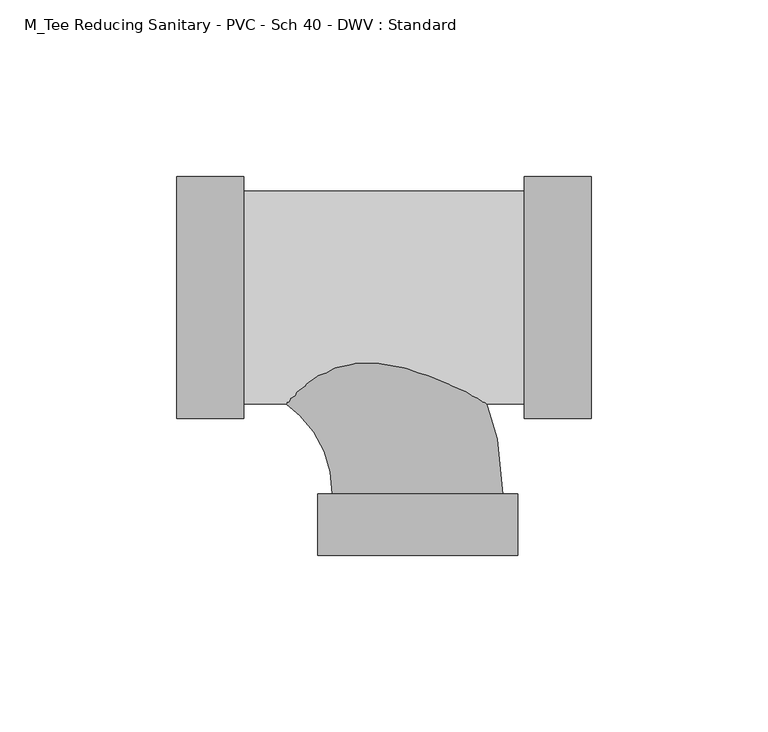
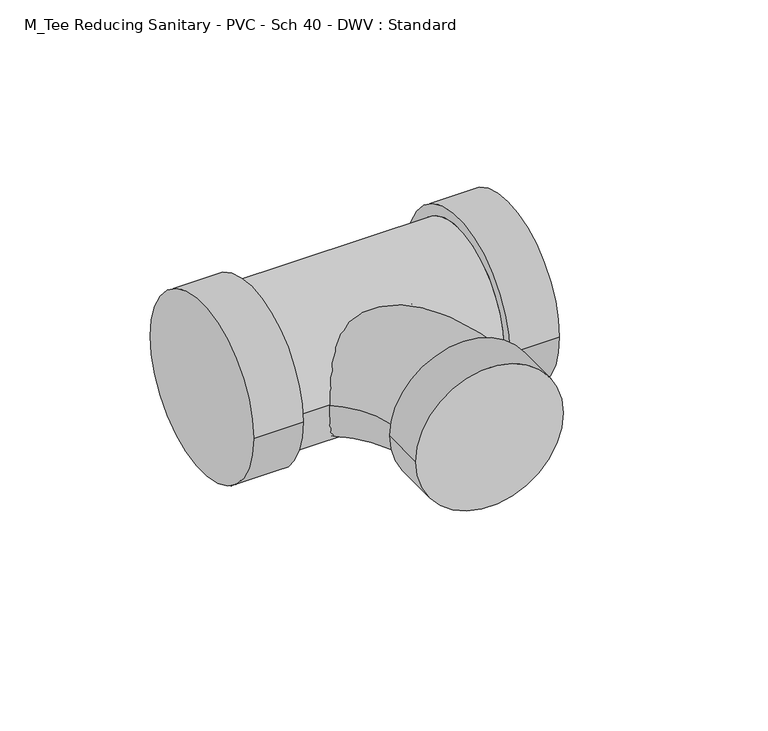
"""IFC4 building model written with IfcOpenShell, lengths in millimetres: pipe fitting geometry, M_Tee Reducing Sanitary - PVC - Sch 40 - DWV : Standard."""

from ifc_helpers import new_model, si_unit, point, frame, origin, place, context, project, spatial, circle_curve, ellipse_curve, trimmed, source, transform, mapped, element, save
from ifc_brep_helpers import plane_surface, cylinder_surface, revolved_surface, advanced_brep


def m_tee_reducing_sanitary_pvc_sch_40_dwv_standard_926349c4(model_context):
    return source(origin(), model_context, "Body", "AdvancedBrep", [
        advanced_brep(
        [(30.1498, -34.3154, 0.0), (30.1498, 34.3154, 0.0), (30.1498, -30.1625, 0.0), (30.1498, 30.1625, 0.0), (49.1998, -34.3154, 0.0), (49.1998, 34.3154, 0.0), (-49.2252, 30.1625, 0.0), (-49.2252, -30.1625, 0.0), (-68.2752, -34.3154, 0.0), (-68.2752, 34.3154, 0.0), (-49.2252, -34.3154, 0.0), (-49.2252, 34.3154, 0.0)],
        [
            (0, 1, circle_curve(frame((30.1498, 0.0, 0.0), z_axis=(-1.0, 0.0, 0.0), x_axis=(0.0, 1.0, 0.0)), 34.3154)),
            (1, 0, circle_curve(frame((30.1498, 0.0, 0.0), z_axis=(-1.0, 0.0, 0.0), x_axis=(0.0, 1.0, 0.0)), 34.3154)),
            (2, 3, circle_curve(frame((30.1498, 0.0, 0.0), z_axis=(1.0, 0.0, 0.0), x_axis=(0.0, 0.0, -1.0)), 30.1625)),
            (3, 2, circle_curve(frame((30.1498, 0.0, 0.0), z_axis=(1.0, 0.0, 0.0), x_axis=(0.0, 0.0, 1.0)), 30.1625)),
            (4, 5, circle_curve(frame((49.1998, 0.0, 0.0), z_axis=(1.0, 0.0, 0.0), x_axis=(0.0, 1.0, 0.0)), 34.3154)),
            (5, 4, circle_curve(frame((49.1998, 0.0, 0.0), z_axis=(1.0, 0.0, 0.0), x_axis=(0.0, 1.0, 0.0)), 34.3154)),
            (0, 4),
            (5, 1),
            (6, 3),
            (2, 7),
            (7, 6, circle_curve(frame((-49.2252, 0.0, 0.0), z_axis=(1.0, 0.0, 0.0), x_axis=(0.0, 0.0, -1.0)), 30.1625)),
            (6, 7, circle_curve(frame((-49.2252, 0.0, 0.0), z_axis=(1.0, 0.0, 0.0), x_axis=(0.0, 0.0, 1.0)), 30.1625)),
            (8, 9, circle_curve(frame((-68.2752, 0.0, 0.0), z_axis=(-1.0, 0.0, 0.0), x_axis=(0.0, 1.0, 0.0)), 34.3154)),
            (9, 8, circle_curve(frame((-68.2752, 0.0, 0.0), z_axis=(-1.0, 0.0, 0.0), x_axis=(0.0, 1.0, 0.0)), 34.3154)),
            (10, 11, circle_curve(frame((-49.2252, 0.0, 0.0), z_axis=(1.0, 0.0, 0.0), x_axis=(0.0, 1.0, 0.0)), 34.3154)),
            (11, 10, circle_curve(frame((-49.2252, 0.0, 0.0), z_axis=(1.0, 0.0, 0.0), x_axis=(0.0, 1.0, 0.0)), 34.3154)),
            (8, 10),
            (11, 9),
        ],
        [
            plane_surface(frame((30.1498, 0.0, 0.0), z_axis=(-1.0, 0.0, 0.0), x_axis=(0.0, 0.0, 1.0))),
            plane_surface(frame((49.1998, 0.0, 0.0), z_axis=(1.0, 0.0, 0.0), x_axis=(0.0, 0.0, 1.0))),
            cylinder_surface(frame((30.1498, 0.0, 0.0), z_axis=(-1.0, 0.0, 0.0), x_axis=(0.0, 1.0, 0.0)), 34.3154),
            cylinder_surface(frame((-49.2252, 0.0, 0.0), z_axis=(1.0, 0.0, 0.0), x_axis=(0.0, 0.0, -1.0)), 30.1625),
            cylinder_surface(frame((-49.2252, 0.0, 0.0), z_axis=(1.0, 0.0, 0.0), x_axis=(0.0, 0.0, 1.0)), 30.1625),
            plane_surface(frame((-68.2752, 0.0, 0.0), z_axis=(-1.0, 0.0, 0.0), x_axis=(0.0, 0.0, 1.0))),
            plane_surface(frame((-49.2252, 0.0, 0.0), z_axis=(1.0, 0.0, 0.0), x_axis=(0.0, 0.0, 1.0))),
            cylinder_surface(frame((-68.2752, 0.0, 0.0), z_axis=(-1.0, 0.0, 0.0), x_axis=(0.0, 1.0, 0.0)), 34.3154),
        ],
        [
            (0, [[1, 2], [3, 4]]),
            (1, [[5, 6]]),
            (2, [[-1, 7, -6, 8]]),
            (2, [[-2, -8, -5, -7]]),
            (3, [[9, -3, 10, 11]]),
            (4, [[-9, 12, -10, -4]]),
            (5, [[13, 14]]),
            (6, [[15, 16], [-11, -12]]),
            (7, [[-13, 17, -16, 18]]),
            (7, [[-14, -18, -15, -17]]),
        ],
    ),
        advanced_brep(
        [(-28.2829, -55.5752, 0.0), (28.2829, -55.5752, 0.0), (24.13, -55.5752, 0.0), (-24.13, -55.5752, 0.0), (-28.2829, -73.025, 0.0), (28.2829, -73.025, 0.0), (-55.5752, -24.13, 0.0), (-55.5752, 24.13, 0.0)],
        [
            (0, 1, circle_curve(frame((0.0, -55.5752, 0.0), z_axis=(0.0, 1.0, 0.0), x_axis=(1.0, 0.0, 0.0)), 28.2829)),
            (1, 0, circle_curve(frame((0.0, -55.5752, 0.0), z_axis=(0.0, 1.0, 0.0), x_axis=(1.0, 0.0, 0.0)), 28.2829)),
            (2, 3, circle_curve(frame((0.0, -55.5752, 0.0), z_axis=(0.0, -1.0, 0.0), x_axis=(1.0, 0.0, 0.0)), 24.13)),
            (3, 2, circle_curve(frame((0.0, -55.5752, 0.0), z_axis=(0.0, -1.0, 0.0), x_axis=(1.0, 0.0, 0.0)), 24.13)),
            (4, 5, circle_curve(frame((0.0, -73.025, 0.0), z_axis=(0.0, -1.0, 0.0), x_axis=(1.0, 0.0, 0.0)), 28.2829)),
            (5, 4, circle_curve(frame((0.0, -73.025, 0.0), z_axis=(0.0, -1.0, 0.0), x_axis=(1.0, 0.0, 0.0)), 28.2829)),
            (0, 4),
            (5, 1),
            (6, 7, circle_curve(frame((-55.5752, 0.0, 0.0), z_axis=(-1.0, 0.0, 0.0), x_axis=(0.0, 1.0, 0.0)), 24.13)),
            (7, 6, circle_curve(frame((-55.5752, 0.0, 0.0), z_axis=(-1.0, 0.0, 0.0), x_axis=(0.0, 1.0, 0.0)), 24.13)),
            (6, 3, circle_curve(frame((-55.5752, -55.5752, 0.0), z_axis=(0.0, 0.0, -1.0), x_axis=(0.0, 1.0, 0.0)), 31.4452)),
            (2, 7, circle_curve(frame((-55.5752, -55.5752, 0.0), z_axis=(0.0, 0.0, 1.0), x_axis=(0.0, 1.0, 0.0)), 79.7052)),
        ],
        [
            plane_surface(frame((0.0, -55.5752, 0.0), z_axis=(0.0, 1.0, 0.0), x_axis=(0.0, 0.0, 1.0))),
            plane_surface(frame((0.0, -73.025, 0.0), z_axis=(0.0, -1.0, 0.0), x_axis=(0.0, 0.0, 1.0))),
            cylinder_surface(frame((0.0, -55.5752, 0.0), z_axis=(0.0, 1.0, 0.0), x_axis=(1.0, 0.0, 0.0)), 28.2829),
            plane_surface(frame((-55.5752, 0.0, 0.0), z_axis=(-1.0, 0.0, 0.0), x_axis=(0.0, 0.0, 1.0))),
            revolved_surface(trimmed(ellipse_curve(frame((-55.5752, 0.0, 0.0), z_axis=(-1.0, 0.0, 0.0), x_axis=(0.0, 1.0, 0.0)), 24.13, 24.13), [point((-55.5752, -24.13, 0.0))], [point((-55.5752, 24.13, 0.0))], True, "CARTESIAN"), (-55.5752, -55.5752, 0.0), (0.0, 0.0, -1.0)),
            revolved_surface(trimmed(ellipse_curve(frame((-55.5752, 0.0, 0.0), z_axis=(-1.0, 0.0, 0.0), x_axis=(0.0, 1.0, 0.0)), 24.13, 24.13), [point((-55.5752, 24.13, 0.0))], [point((-55.5752, -24.13, 0.0))], True, "CARTESIAN"), (-55.5752, -55.5752, 0.0), (0.0, 0.0, -1.0)),
        ],
        [
            (0, [[1, 2], [3, 4]]),
            (1, [[5, 6]]),
            (2, [[-1, 7, -6, 8]]),
            (2, [[-2, -8, -5, -7]]),
            (3, [[9, 10]]),
            (4, [[-9, 11, -3, 12]]),
            (5, [[-10, -12, -4, -11]]),
        ],
    ),
    ])


if __name__ == "__main__":
    model = new_model("IFC4")
    model_context = context("Model", 3, world=origin())
    ifc_project = project(units=[si_unit("LENGTHUNIT", "METRE", prefix="MILLI")], contexts=[model_context])
    site = spatial("IfcSite", under=ifc_project)
    building = spatial("IfcBuilding", under=site)
    placement = place(None, origin())
    m_tee_reducing_sanitary_pvc_sch_40_dwv_standard_shape = m_tee_reducing_sanitary_pvc_sch_40_dwv_standard_926349c4(model_context)
    element("IfcPipeFitting", 1, ObjectType="M_Tee Reducing Sanitary - PVC - Sch 40 - DWV : Standard", at=placement, inside=building, context=model_context, shape_type="MappedRepresentation", body=[
        mapped(m_tee_reducing_sanitary_pvc_sch_40_dwv_standard_shape, transform((0.0, 0.0, 0.0), x_axis=(1.0, 0.0, 0.0), y_axis=(0.0, 1.0, 0.0), z_axis=(0.0, 0.0, 1.0))),
    ])
    save(model, "model.ifc")
